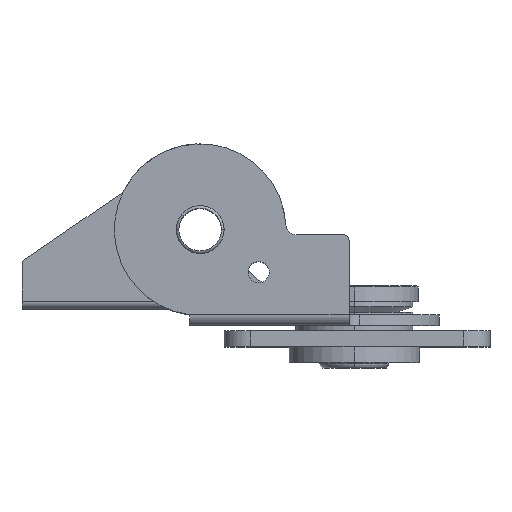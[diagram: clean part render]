
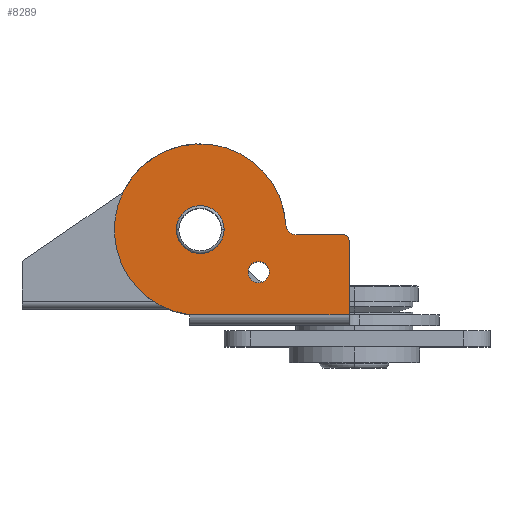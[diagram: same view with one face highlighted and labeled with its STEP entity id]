
A CAD part, top view. The second image highlights one B-rep face of the part: STEP entity #8289.
In plain terms, the highlighted planar face has unit normal (0, 0, 1).
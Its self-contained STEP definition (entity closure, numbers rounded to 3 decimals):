
#105 = DIRECTION ( 'NONE',  ( 1., 0., 0. ) ) ;
#147 = DIRECTION ( 'NONE',  ( 1., 0., 0. ) ) ;
#478 = DIRECTION ( 'NONE',  ( 0., 0., 1. ) ) ;
#523 = AXIS2_PLACEMENT_3D ( 'NONE', #14184, #6656, #10933 ) ;
#570 = CARTESIAN_POINT ( 'NONE',  ( -2.5, 21., 25. ) ) ;
#688 = CARTESIAN_POINT ( 'NONE',  ( -1.5, 6., 25. ) ) ;
#977 = VERTEX_POINT ( 'NONE', #1705 ) ;
#1327 = EDGE_CURVE ( 'NONE', #6058, #7773, #11079, .T. ) ;
#1509 = CARTESIAN_POINT ( 'NONE',  ( -34., 22., 25. ) ) ;
#1525 = DIRECTION ( 'NONE',  ( 0., 0., -1. ) ) ;
#1705 = CARTESIAN_POINT ( 'NONE',  ( -16.5, 14., 25. ) ) ;
#1882 = EDGE_CURVE ( 'NONE', #3520, #9316, #10627, .T. ) ;
#2137 = PLANE ( 'NONE',  #5621 ) ;
#2316 = EDGE_CURVE ( 'NONE', #2847, #5242, #7520, .T. ) ;
#2830 = EDGE_CURVE ( 'NONE', #9735, #977, #4903, .T. ) ;
#2847 = VERTEX_POINT ( 'NONE', #13401 ) ;
#3253 = DIRECTION ( 'NONE',  ( 0., 0., 1. ) ) ;
#3520 = VERTEX_POINT ( 'NONE', #10772 ) ;
#3644 = DIRECTION ( 'NONE',  ( 0., 0., 1. ) ) ;
#3689 = AXIS2_PLACEMENT_3D ( 'NONE', #9838, #3253, #147 ) ;
#3805 = CARTESIAN_POINT ( 'NONE',  ( -13.4, 22.89, 25. ) ) ;
#3836 = EDGE_LOOP ( 'NONE', ( #9204, #5987 ) ) ;
#3902 = DIRECTION ( 'NONE',  ( 1., 0., 0. ) ) ;
#3924 = CARTESIAN_POINT ( 'NONE',  ( -1.5, 21., 25. ) ) ;
#4238 = DIRECTION ( 'NONE',  ( 0., 0., 1. ) ) ;
#4380 = AXIS2_PLACEMENT_3D ( 'NONE', #9264, #1525, #11369 ) ;
#4454 = EDGE_CURVE ( 'NONE', #9316, #3520, #13722, .T. ) ;
#4573 = VERTEX_POINT ( 'NONE', #12430 ) ;
#4731 = AXIS2_PLACEMENT_3D ( 'NONE', #9479, #13892, #7382 ) ;
#4903 = CIRCLE ( 'NONE', #9066, 2. ) ;
#5107 = DIRECTION ( 'NONE',  ( 0., 0., -1. ) ) ;
#5178 = DIRECTION ( 'NONE',  ( 1., 0., 0. ) ) ;
#5242 = VERTEX_POINT ( 'NONE', #10280 ) ;
#5342 = EDGE_LOOP ( 'NONE', ( #11112, #7716, #9254, #12426, #8385, #5819 ) ) ;
#5412 = CARTESIAN_POINT ( 'NONE',  ( -1.5, 6., 25. ) ) ;
#5491 = EDGE_CURVE ( 'NONE', #4573, #6137, #6299, .T. ) ;
#5621 = AXIS2_PLACEMENT_3D ( 'NONE', #688, #5107, #9512 ) ;
#5819 = ORIENTED_EDGE ( 'NONE', *, *, #2316, .T. ) ;
#5845 = CARTESIAN_POINT ( 'NONE',  ( -20.5, 14., 25. ) ) ;
#5974 = CIRCLE ( 'NONE', #7362, 2. ) ;
#5987 = ORIENTED_EDGE ( 'NONE', *, *, #2830, .F. ) ;
#5988 = CARTESIAN_POINT ( 'NONE',  ( -18.5, 14., 25. ) ) ;
#6058 = VERTEX_POINT ( 'NONE', #10757 ) ;
#6137 = VERTEX_POINT ( 'NONE', #570 ) ;
#6167 = DIRECTION ( 'NONE',  ( -1., 0., 0. ) ) ;
#6299 = CIRCLE ( 'NONE', #523, 1. ) ;
#6656 = DIRECTION ( 'NONE',  ( 0., 0., 1. ) ) ;
#7362 = AXIS2_PLACEMENT_3D ( 'NONE', #5988, #478, #11489 ) ;
#7382 = DIRECTION ( 'NONE',  ( 1., 0., 0. ) ) ;
#7520 = LINE ( 'NONE', #11933, #11281 ) ;
#7716 = ORIENTED_EDGE ( 'NONE', *, *, #5491, .T. ) ;
#7773 = VERTEX_POINT ( 'NONE', #3805 ) ;
#7796 = ORIENTED_EDGE ( 'NONE', *, *, #4454, .F. ) ;
#7936 = CIRCLE ( 'NONE', #9782, 16.125 ) ;
#8125 = EDGE_CURVE ( 'NONE', #7773, #2847, #7936, .T. ) ;
#8289 = ADVANCED_FACE ( 'NONE', ( #8707, #8429, #13129 ), #2137, .F. ) ;
#8385 = ORIENTED_EDGE ( 'NONE', *, *, #8125, .T. ) ;
#8429 = FACE_BOUND ( 'NONE', #12673, .T. ) ;
#8707 = FACE_OUTER_BOUND ( 'NONE', #5342, .T. ) ;
#8805 = DIRECTION ( 'NONE',  ( 0., -1., 0. ) ) ;
#9066 = AXIS2_PLACEMENT_3D ( 'NONE', #13263, #3644, #105 ) ;
#9204 = ORIENTED_EDGE ( 'NONE', *, *, #13988, .F. ) ;
#9254 = ORIENTED_EDGE ( 'NONE', *, *, #11683, .T. ) ;
#9264 = CARTESIAN_POINT ( 'NONE',  ( -11.403, 23., 25. ) ) ;
#9309 = VECTOR ( 'NONE', #6167, 1000. ) ;
#9316 = VERTEX_POINT ( 'NONE', #1509 ) ;
#9479 = CARTESIAN_POINT ( 'NONE',  ( -29.5, 22., 25. ) ) ;
#9512 = DIRECTION ( 'NONE',  ( -1., 0., 0. ) ) ;
#9735 = VERTEX_POINT ( 'NONE', #5845 ) ;
#9782 = AXIS2_PLACEMENT_3D ( 'NONE', #14073, #4238, #5178 ) ;
#9838 = CARTESIAN_POINT ( 'NONE',  ( -29.5, 22., 25. ) ) ;
#10280 = CARTESIAN_POINT ( 'NONE',  ( -1.5, 6., 25. ) ) ;
#10627 = CIRCLE ( 'NONE', #3689, 4.5 ) ;
#10757 = CARTESIAN_POINT ( 'NONE',  ( -11.403, 21., 25. ) ) ;
#10772 = CARTESIAN_POINT ( 'NONE',  ( -25., 22., 25. ) ) ;
#10917 = LINE ( 'NONE', #5412, #13491 ) ;
#10933 = DIRECTION ( 'NONE',  ( -1., 0., 0. ) ) ;
#11079 = CIRCLE ( 'NONE', #4380, 2. ) ;
#11112 = ORIENTED_EDGE ( 'NONE', *, *, #12486, .F. ) ;
#11281 = VECTOR ( 'NONE', #3902, 1000. ) ;
#11369 = DIRECTION ( 'NONE',  ( -1., 0., 0. ) ) ;
#11489 = DIRECTION ( 'NONE',  ( 1., 0., 0. ) ) ;
#11683 = EDGE_CURVE ( 'NONE', #6137, #6058, #12815, .T. ) ;
#11933 = CARTESIAN_POINT ( 'NONE',  ( -1.5, 6., 25. ) ) ;
#12426 = ORIENTED_EDGE ( 'NONE', *, *, #1327, .T. ) ;
#12430 = CARTESIAN_POINT ( 'NONE',  ( -1.5, 20., 25. ) ) ;
#12486 = EDGE_CURVE ( 'NONE', #4573, #5242, #10917, .T. ) ;
#12673 = EDGE_LOOP ( 'NONE', ( #13906, #7796 ) ) ;
#12815 = LINE ( 'NONE', #3924, #9309 ) ;
#13129 = FACE_BOUND ( 'NONE', #3836, .T. ) ;
#13263 = CARTESIAN_POINT ( 'NONE',  ( -18.5, 14., 25. ) ) ;
#13401 = CARTESIAN_POINT ( 'NONE',  ( -31.5, 6., 25. ) ) ;
#13491 = VECTOR ( 'NONE', #8805, 1000. ) ;
#13722 = CIRCLE ( 'NONE', #4731, 4.5 ) ;
#13892 = DIRECTION ( 'NONE',  ( 0., 0., 1. ) ) ;
#13906 = ORIENTED_EDGE ( 'NONE', *, *, #1882, .F. ) ;
#13988 = EDGE_CURVE ( 'NONE', #977, #9735, #5974, .T. ) ;
#14073 = CARTESIAN_POINT ( 'NONE',  ( -29.5, 22., 25. ) ) ;
#14184 = CARTESIAN_POINT ( 'NONE',  ( -2.5, 20., 25. ) ) ;
